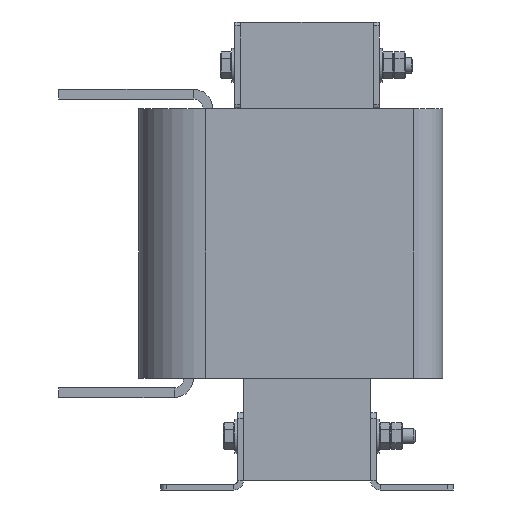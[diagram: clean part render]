
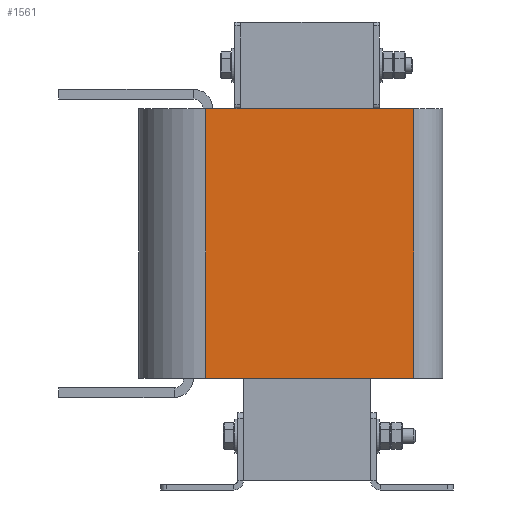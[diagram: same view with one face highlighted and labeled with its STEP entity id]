
A CAD part, left-side view. The second image highlights one B-rep face of the part: STEP entity #1561.
In plain terms, the highlighted planar face has unit normal (-1, 0, 0) as drawn and (0, -1, 0) by its records, which use the part's own axes.
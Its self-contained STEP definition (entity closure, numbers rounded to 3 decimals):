
#1561=ADVANCED_FACE('',(#2372),#2374,.T.);
#2372=FACE_BOUND('',#2373,.T.);
#2373=EDGE_LOOP('',(#3370,#3371,#3372,#3373));
#2374=PLANE('',#2375);
#2375=AXIS2_PLACEMENT_3D('',#2376,#2377,#2378);
#2376=CARTESIAN_POINT('',(-44.,-42.,0.));
#2377=DIRECTION('',(0.,-1.,0.));
#2378=DIRECTION('',(1.,0.,0.));
#3370=ORIENTED_EDGE('',*,*,#3913,.T.);
#3371=ORIENTED_EDGE('',*,*,#3914,.T.);
#3372=ORIENTED_EDGE('',*,*,#3915,.F.);
#3373=ORIENTED_EDGE('',*,*,#3916,.F.);
#3913=EDGE_CURVE('',#4423,#4424,#4425,.T.);
#3914=EDGE_CURVE('',#4424,#4426,#4427,.T.);
#3915=EDGE_CURVE('',#4428,#4426,#4429,.T.);
#3916=EDGE_CURVE('',#4423,#4428,#4430,.T.);
#4423=VERTEX_POINT('',#5506);
#4424=VERTEX_POINT('',#5507);
#4425=LINE('',#5508,#5509);
#4426=VERTEX_POINT('',#5511);
#4427=LINE('',#5512,#5513);
#4428=VERTEX_POINT('',#5515);
#4429=LINE('',#5516,#5517);
#4430=LINE('',#5519,#5520);
#5506=CARTESIAN_POINT('',(-44.,-42.,0.));
#5507=CARTESIAN_POINT('',(64.,-42.,0.));
#5508=CARTESIAN_POINT('',(-44.,-42.,0.));
#5509=VECTOR('',#5510,1.);
#5510=DIRECTION('',(1.,0.,0.));
#5511=CARTESIAN_POINT('',(64.,-42.,140.));
#5512=CARTESIAN_POINT('',(64.,-42.,0.));
#5513=VECTOR('',#5514,1.);
#5514=DIRECTION('',(0.,0.,1.));
#5515=CARTESIAN_POINT('',(-44.,-42.,140.));
#5516=CARTESIAN_POINT('',(-44.,-42.,140.));
#5517=VECTOR('',#5518,1.);
#5518=DIRECTION('',(1.,0.,0.));
#5519=CARTESIAN_POINT('',(-44.,-42.,0.));
#5520=VECTOR('',#5521,1.);
#5521=DIRECTION('',(0.,0.,1.));
